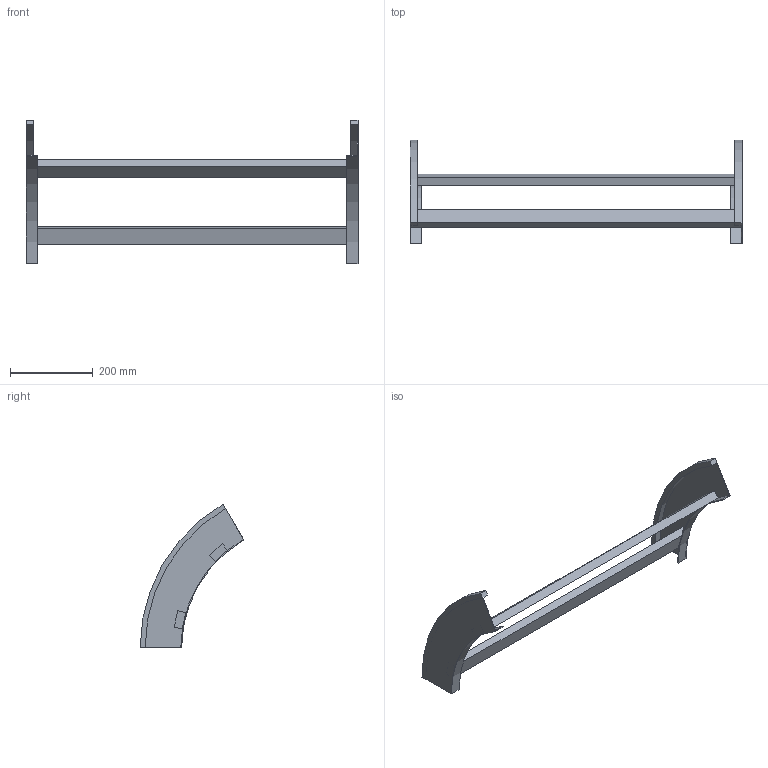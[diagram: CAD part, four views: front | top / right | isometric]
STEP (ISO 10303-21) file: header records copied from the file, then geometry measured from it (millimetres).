
FILE_DESCRIPTION (( 'STEP AP214' ), '1' );
FILE_NAME ('B2_41B3D800.step', '2025-02-21T14:57:27', ( '' ), ( '' ), 'SwSTEP 2.0', 'SolidWorks 2023', '' );
FILE_SCHEMA (( 'AUTOMOTIVE_DESIGN' ));
Length unit declared in the file: millimetre
Products named in the file (3): TRAVERSINO_800; B2_LONGH.DISCESA_60°_H100_R300; B2_41B3D800
Assembly tree (4 placements, depth 2):
  B2_41B3D800
    B2_LONGH.DISCESA_60°_H100_R300  x2
    TRAVERSINO_800  x2
Bounding box: 800 x 250 x 346.41 mm (x, y, z)
Volume: 1626085.1 mm3; surface area: 405106.6 mm2
Topology: 4 solids, 4 shells, 32 faces, 72 edges, 48 vertices
Faces by surface type: plane 24, cylinder 8
Entity records: 552 total; most frequent: DIRECTION 90, CARTESIAN_POINT 83, ORIENTED_EDGE 72, EDGE_CURVE 36, AXIS2_PLACEMENT_3D 31, VECTOR 28, LINE 28, VERTEX_POINT 24
